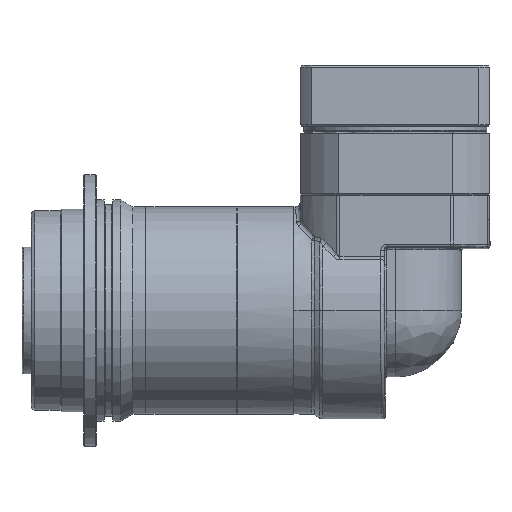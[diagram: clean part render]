
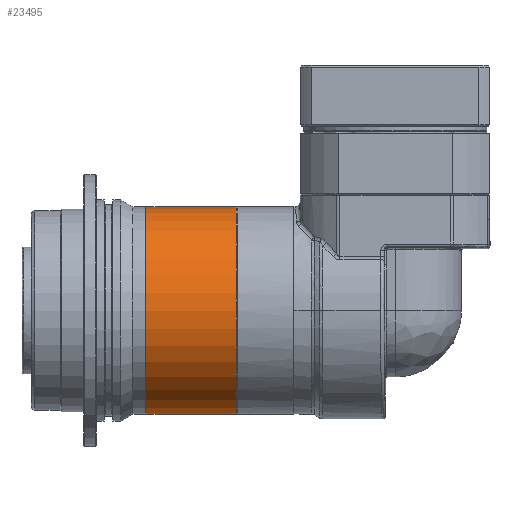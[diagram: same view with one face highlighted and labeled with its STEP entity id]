
A CAD part, front view. The second image highlights one B-rep face of the part: STEP entity #23495.
In plain terms, the highlighted cylindrical face has radius 32.75 mm (diameter 65.5 mm), a partial arc.
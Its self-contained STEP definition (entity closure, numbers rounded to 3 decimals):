
#2385 = EDGE_CURVE ( 'NONE', #52006, #21702, #33466, .T. ) ;
#3426 = CARTESIAN_POINT ( 'NONE',  ( -118.465, -26.92, 20.081 ) ) ;
#4936 = EDGE_CURVE ( 'NONE', #10560, #56675, #7135, .T. ) ;
#7135 = LINE ( 'NONE', #3426, #20301 ) ;
#7359 = DIRECTION ( 'NONE',  ( 0., 0., 1. ) ) ;
#8962 = ORIENTED_EDGE ( 'NONE', *, *, #15287, .T. ) ;
#9520 = CARTESIAN_POINT ( 'NONE',  ( -118.465, -26.92, 52.831 ) ) ;
#10560 = VERTEX_POINT ( 'NONE', #49970 ) ;
#12259 = DIRECTION ( 'NONE',  ( -1., 0., 0. ) ) ;
#15287 = EDGE_CURVE ( 'NONE', #10560, #52006, #32134, .T. ) ;
#18419 = AXIS2_PLACEMENT_3D ( 'NONE', #21743, #12259, #7359 ) ;
#20301 = VECTOR ( 'NONE', #21234, 1000. ) ;
#21234 = DIRECTION ( 'NONE',  ( -1., 0., 0. ) ) ;
#21702 = VERTEX_POINT ( 'NONE', #55480 ) ;
#21743 = CARTESIAN_POINT ( 'NONE',  ( -86.665, -26.92, 52.831 ) ) ;
#22391 = AXIS2_PLACEMENT_3D ( 'NONE', #43983, #34817, #30220 ) ;
#23495 = ADVANCED_FACE ( 'NONE', ( #56127 ), #55835, .T. ) ;
#26465 = EDGE_LOOP ( 'NONE', ( #33789, #8962, #52247, #38090 ) ) ;
#30220 = DIRECTION ( 'NONE',  ( 0., 0., -1. ) ) ;
#31602 = DIRECTION ( 'NONE',  ( -1., 0., 0. ) ) ;
#32134 = CIRCLE ( 'NONE', #18419, 32.75 ) ;
#32867 = DIRECTION ( 'NONE',  ( -1., 0., 0. ) ) ;
#32981 = CARTESIAN_POINT ( 'NONE',  ( -115.265, -26.92, 20.081 ) ) ;
#33466 = LINE ( 'NONE', #37439, #48527 ) ;
#33789 = ORIENTED_EDGE ( 'NONE', *, *, #4936, .F. ) ;
#34817 = DIRECTION ( 'NONE',  ( -1., 0., 0. ) ) ;
#37439 = CARTESIAN_POINT ( 'NONE',  ( -118.465, -26.92, 85.581 ) ) ;
#38090 = ORIENTED_EDGE ( 'NONE', *, *, #58551, .F. ) ;
#43768 = CARTESIAN_POINT ( 'NONE',  ( -86.665, -26.92, 85.581 ) ) ;
#43983 = CARTESIAN_POINT ( 'NONE',  ( -115.265, -26.92, 52.831 ) ) ;
#48527 = VECTOR ( 'NONE', #32867, 1000. ) ;
#49970 = CARTESIAN_POINT ( 'NONE',  ( -86.665, -26.92, 20.081 ) ) ;
#52006 = VERTEX_POINT ( 'NONE', #43768 ) ;
#52247 = ORIENTED_EDGE ( 'NONE', *, *, #2385, .T. ) ;
#55217 = DIRECTION ( 'NONE',  ( 0., 0., 1. ) ) ;
#55480 = CARTESIAN_POINT ( 'NONE',  ( -115.265, -26.92, 85.581 ) ) ;
#55835 = CYLINDRICAL_SURFACE ( 'NONE', #57158, 32.75 ) ;
#56127 = FACE_OUTER_BOUND ( 'NONE', #26465, .T. ) ;
#56675 = VERTEX_POINT ( 'NONE', #32981 ) ;
#57158 = AXIS2_PLACEMENT_3D ( 'NONE', #9520, #31602, #55217 ) ;
#57711 = CIRCLE ( 'NONE', #22391, 32.75 ) ;
#58551 = EDGE_CURVE ( 'NONE', #56675, #21702, #57711, .T. ) ;
